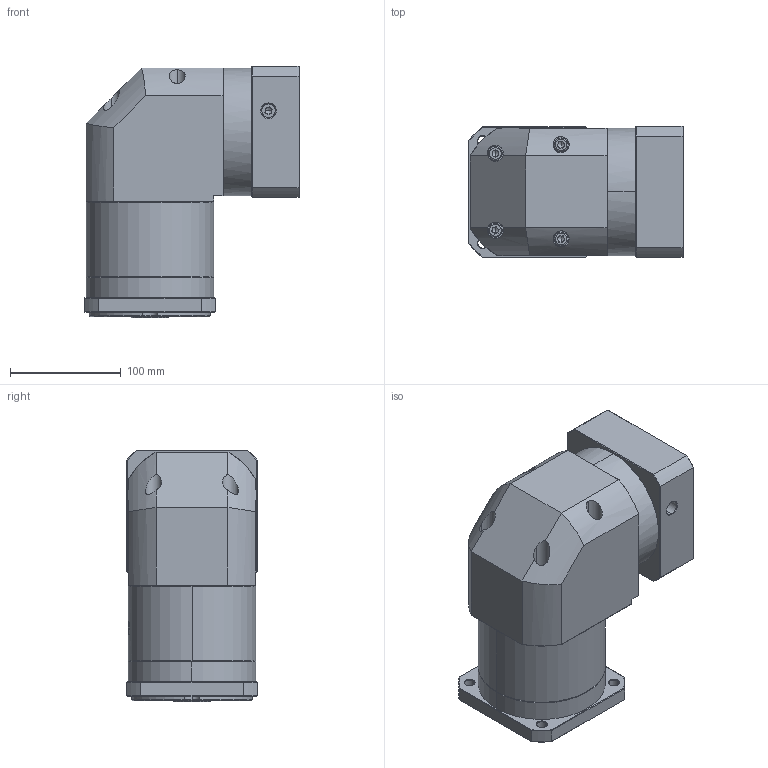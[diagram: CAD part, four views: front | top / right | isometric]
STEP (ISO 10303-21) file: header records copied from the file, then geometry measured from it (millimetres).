
FILE_DESCRIPTION (( 'STEP AP214' ), '1' );
FILE_NAME ('ZFR120A-K25-L2-P2-24-110-130-M8.step', '2023-08-27T08:15:49', ( '' ), ( '' ), 'SwSTEP 2.0', 'SolidWorks 2016', '' );
FILE_SCHEMA (( 'AUTOMOTIVE_DESIGN' ));
Length unit declared in the file: millimetre
Products named in the file (1): ZFR120A-K25-L2-P2-24-110-130-M8
Bounding box: 193.9 x 118 x 226.5 mm (x, y, z)
Volume: 3119375.5 mm3; surface area: 252501.8 mm2
Topology: 6 solids, 6 shells, 2209 faces, 5840 edges, 3736 vertices
Faces by surface type: plane 1054, bspline 415, cylinder 401, cone 331, torus 8
Entity records: 118782 total; most frequent: CARTESIAN_POINT 45062, ORIENTED_EDGE 11624, DIRECTION 8453, EDGE_CURVE 5812, VERTEX_POINT 3736, VECTOR 3107, LINE 3107, AXIS2_PLACEMENT_3D 2673
